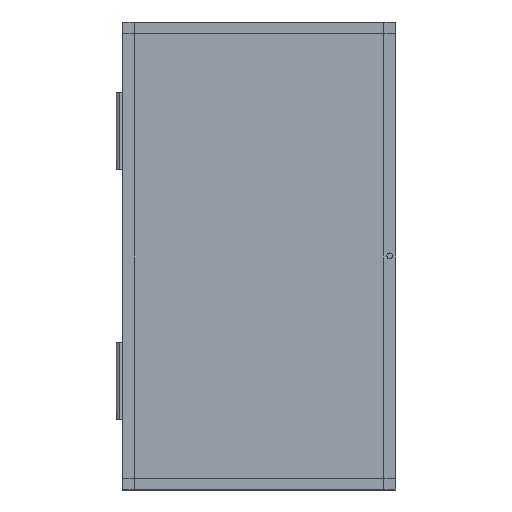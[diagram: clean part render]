
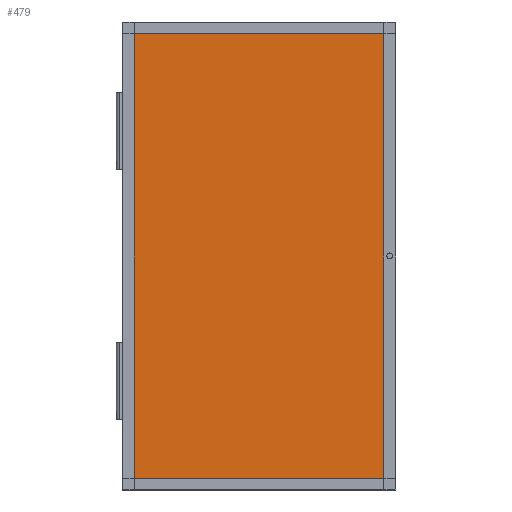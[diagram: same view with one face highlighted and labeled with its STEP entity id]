
A CAD part, front view. The second image highlights one B-rep face of the part: STEP entity #479.
In plain terms, the highlighted free-form (B-spline) face has degree [1, 1] with [2, 2] control points.
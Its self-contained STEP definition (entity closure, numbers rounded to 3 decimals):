
#479=ADVANCED_FACE('',(#692),#6273,.T.);
#692=FACE_OUTER_BOUND('',#914,.T.);
#914=EDGE_LOOP('',(#1827,#1828,#1829,#1830));
#1827=ORIENTED_EDGE('',*,*,#4569,.F.);
#1828=ORIENTED_EDGE('',*,*,#4573,.F.);
#1829=ORIENTED_EDGE('',*,*,#4576,.F.);
#1830=ORIENTED_EDGE('',*,*,#4578,.F.);
#2725=PCURVE('',#6268,#3641);
#2729=PCURVE('',#6269,#3645);
#2733=PCURVE('',#6270,#3649);
#2737=PCURVE('',#6271,#3653);
#2743=PCURVE('',#6273,#3659);
#2744=PCURVE('',#6273,#3660);
#2745=PCURVE('',#6273,#3661);
#2746=PCURVE('',#6273,#3662);
#3641=DEFINITIONAL_REPRESENTATION('',(#5772),#10729);
#3645=DEFINITIONAL_REPRESENTATION('',(#5780),#10729);
#3649=DEFINITIONAL_REPRESENTATION('',(#5787),#10729);
#3653=DEFINITIONAL_REPRESENTATION('',(#5793),#10729);
#3659=DEFINITIONAL_REPRESENTATION('',(#5799),#10729);
#3660=DEFINITIONAL_REPRESENTATION('',(#5800),#10729);
#3661=DEFINITIONAL_REPRESENTATION('',(#5801),#10729);
#3662=DEFINITIONAL_REPRESENTATION('',(#5802),#10729);
#4111=SURFACE_CURVE('',#5771,(#2725,#2743),.PCURVE_S1.);
#4115=SURFACE_CURVE('',#5779,(#2729,#2744),.PCURVE_S1.);
#4118=SURFACE_CURVE('',#5786,(#2733,#2745),.PCURVE_S1.);
#4120=SURFACE_CURVE('',#5792,(#2737,#2746),.PCURVE_S1.);
#4569=EDGE_CURVE('',#6085,#6086,#4111,.T.);
#4573=EDGE_CURVE('',#6088,#6085,#4115,.T.);
#4576=EDGE_CURVE('',#6090,#6088,#4118,.T.);
#4578=EDGE_CURVE('',#6086,#6090,#4120,.T.);
#5771=B_SPLINE_CURVE_WITH_KNOTS('',1,(#10664,#10665),.UNSPECIFIED.,.F.,
 .F.,(2,2),(-333.475,0.),.UNSPECIFIED.);
#5772=B_SPLINE_CURVE_WITH_KNOTS('',1,(#10666,#10667),.UNSPECIFIED.,.F.,
 .F.,(2,2),(-333.475,0.),.UNSPECIFIED.);
#5779=B_SPLINE_CURVE_WITH_KNOTS('',1,(#10680,#10681),.UNSPECIFIED.,.F.,
 .F.,(2,2),(-916.913,-333.475),.UNSPECIFIED.);
#5780=B_SPLINE_CURVE_WITH_KNOTS('',1,(#10682,#10683),.UNSPECIFIED.,.F.,
 .F.,(2,2),(-916.913,-333.475),.UNSPECIFIED.);
#5786=B_SPLINE_CURVE_WITH_KNOTS('',1,(#10694,#10695),.UNSPECIFIED.,.F.,
 .F.,(2,2),(-1250.387,-916.913),.UNSPECIFIED.);
#5787=B_SPLINE_CURVE_WITH_KNOTS('',1,(#10696,#10697),.UNSPECIFIED.,.F.,
 .F.,(2,2),(-1250.387,-916.913),.UNSPECIFIED.);
#5792=B_SPLINE_CURVE_WITH_KNOTS('',1,(#10706,#10707),.UNSPECIFIED.,.F.,
 .F.,(2,2),(-1833.825,-1250.387),.UNSPECIFIED.);
#5793=B_SPLINE_CURVE_WITH_KNOTS('',1,(#10708,#10709),.UNSPECIFIED.,.F.,
 .F.,(2,2),(-1833.825,-1250.387),.UNSPECIFIED.);
#5799=B_SPLINE_CURVE_WITH_KNOTS('',1,(#10720,#10721),.UNSPECIFIED.,.F.,
 .F.,(2,2),(-333.475,0.),.UNSPECIFIED.);
#5800=B_SPLINE_CURVE_WITH_KNOTS('',1,(#10722,#10723),.UNSPECIFIED.,.F.,
 .F.,(2,2),(-916.913,-333.475),.UNSPECIFIED.);
#5801=B_SPLINE_CURVE_WITH_KNOTS('',1,(#10724,#10725),.UNSPECIFIED.,.F.,
 .F.,(2,2),(-1250.387,-916.913),.UNSPECIFIED.);
#5802=B_SPLINE_CURVE_WITH_KNOTS('',1,(#10726,#10727),.UNSPECIFIED.,.F.,
 .F.,(2,2),(-1833.825,-1250.387),.UNSPECIFIED.);
#6085=VERTEX_POINT('',#10650);
#6086=VERTEX_POINT('',#10651);
#6088=VERTEX_POINT('',#10653);
#6090=VERTEX_POINT('',#10655);
#6268=B_SPLINE_SURFACE_WITH_KNOTS('',1,1,((#10624,#10625),(#10626,#10627)),
 .UNSPECIFIED.,.F.,.F.,.F.,(2,2),(2,2),(0.,333.475),(0.,4.),
 .UNSPECIFIED.);
#6269=B_SPLINE_SURFACE_WITH_KNOTS('',1,1,((#10628,#10629),(#10630,#10631)),
 .UNSPECIFIED.,.F.,.F.,.F.,(2,2),(2,2),(333.475,916.913),
(0.,4.),.UNSPECIFIED.);
#6270=B_SPLINE_SURFACE_WITH_KNOTS('',1,1,((#10632,#10633),(#10634,#10635)),
 .UNSPECIFIED.,.F.,.F.,.F.,(2,2),(2,2),(916.913,1250.387),
(0.,4.),.UNSPECIFIED.);
#6271=B_SPLINE_SURFACE_WITH_KNOTS('',1,1,((#10636,#10637),(#10638,#10639)),
 .UNSPECIFIED.,.F.,.F.,.F.,(2,2),(2,2),(1250.387,1833.825),
(0.,4.),.UNSPECIFIED.);
#6273=B_SPLINE_SURFACE_WITH_KNOTS('',1,1,((#10644,#10645),(#10646,#10647)),
 .UNSPECIFIED.,.F.,.F.,.F.,(2,2),(2,2),(0.,333.475),(0.,583.438),
 .UNSPECIFIED.);
#10624=CARTESIAN_POINT('',(317.848,-60.992,958.175));
#10625=CARTESIAN_POINT('',(317.848,-64.992,958.175));
#10626=CARTESIAN_POINT('',(651.323,-60.992,958.175));
#10627=CARTESIAN_POINT('',(651.323,-64.992,958.175));
#10628=CARTESIAN_POINT('',(651.323,-60.992,958.175));
#10629=CARTESIAN_POINT('',(651.323,-64.992,958.175));
#10630=CARTESIAN_POINT('',(651.323,-60.992,1541.613));
#10631=CARTESIAN_POINT('',(651.323,-64.992,1541.613));
#10632=CARTESIAN_POINT('',(651.323,-60.992,1541.613));
#10633=CARTESIAN_POINT('',(651.323,-64.992,1541.613));
#10634=CARTESIAN_POINT('',(317.848,-60.992,1541.613));
#10635=CARTESIAN_POINT('',(317.848,-64.992,1541.613));
#10636=CARTESIAN_POINT('',(317.848,-60.992,1541.613));
#10637=CARTESIAN_POINT('',(317.848,-64.992,1541.613));
#10638=CARTESIAN_POINT('',(317.848,-60.992,958.175));
#10639=CARTESIAN_POINT('',(317.848,-64.992,958.175));
#10644=CARTESIAN_POINT('',(317.848,-64.992,958.175));
#10645=CARTESIAN_POINT('',(317.848,-64.992,1541.613));
#10646=CARTESIAN_POINT('',(651.323,-64.992,958.175));
#10647=CARTESIAN_POINT('',(651.323,-64.992,1541.613));
#10650=CARTESIAN_POINT('',(651.323,-64.992,958.175));
#10651=CARTESIAN_POINT('',(317.848,-64.992,958.175));
#10653=CARTESIAN_POINT('',(651.323,-64.992,1541.613));
#10655=CARTESIAN_POINT('',(317.848,-64.992,1541.613));
#10664=CARTESIAN_POINT('',(651.323,-64.992,958.175));
#10665=CARTESIAN_POINT('',(317.848,-64.992,958.175));
#10666=CARTESIAN_POINT('',(333.475,4.));
#10667=CARTESIAN_POINT('',(0.,4.));
#10680=CARTESIAN_POINT('',(651.323,-64.992,1541.613));
#10681=CARTESIAN_POINT('',(651.323,-64.992,958.175));
#10682=CARTESIAN_POINT('',(916.913,4.));
#10683=CARTESIAN_POINT('',(333.475,4.));
#10694=CARTESIAN_POINT('',(317.848,-64.992,1541.613));
#10695=CARTESIAN_POINT('',(651.323,-64.992,1541.613));
#10696=CARTESIAN_POINT('',(1250.387,4.));
#10697=CARTESIAN_POINT('',(916.913,4.));
#10706=CARTESIAN_POINT('',(317.848,-64.992,958.175));
#10707=CARTESIAN_POINT('',(317.848,-64.992,1541.613));
#10708=CARTESIAN_POINT('',(1833.825,4.));
#10709=CARTESIAN_POINT('',(1250.387,4.));
#10720=CARTESIAN_POINT('',(333.475,0.));
#10721=CARTESIAN_POINT('',(0.,0.));
#10722=CARTESIAN_POINT('',(333.475,583.438));
#10723=CARTESIAN_POINT('',(333.475,0.));
#10724=CARTESIAN_POINT('',(0.,583.438));
#10725=CARTESIAN_POINT('',(333.475,583.438));
#10726=CARTESIAN_POINT('',(0.,0.));
#10727=CARTESIAN_POINT('',(0.,583.438));
#10729=(
GEOMETRIC_REPRESENTATION_CONTEXT(2)
PARAMETRIC_REPRESENTATION_CONTEXT()
REPRESENTATION_CONTEXT('pspace','')
);
